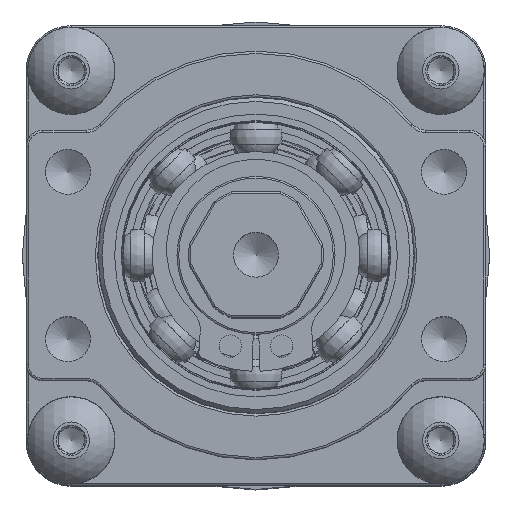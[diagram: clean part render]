
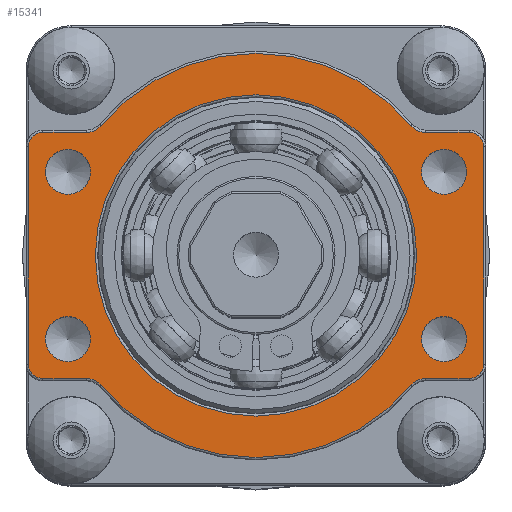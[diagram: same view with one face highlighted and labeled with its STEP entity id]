
A CAD part, top view. The second image highlights one B-rep face of the part: STEP entity #15341.
In plain terms, the highlighted planar face has unit normal (0, 0, 1).
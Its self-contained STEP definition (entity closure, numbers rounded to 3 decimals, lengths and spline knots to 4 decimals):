
#948=LINE('',#26279,#1585);
#949=LINE('',#26283,#1586);
#950=LINE('',#26287,#1587);
#951=LINE('',#26295,#1588);
#952=LINE('',#26299,#1589);
#953=LINE('',#26303,#1590);
#1585=VECTOR('',#20151,0.3937);
#1586=VECTOR('',#20154,0.3937);
#1587=VECTOR('',#20157,0.3937);
#1588=VECTOR('',#20164,0.3937);
#1589=VECTOR('',#20167,0.3937);
#1590=VECTOR('',#20170,0.3937);
#2661=FACE_BOUND('',#4377,.T.);
#2662=FACE_BOUND('',#4378,.T.);
#2663=FACE_BOUND('',#4379,.T.);
#2664=FACE_BOUND('',#4380,.T.);
#2665=FACE_BOUND('',#4381,.T.);
#2845=PLANE('',#16993);
#3298=FACE_OUTER_BOUND('',#4376,.T.);
#4376=EDGE_LOOP('',(#11900,#11901,#11902,#11903,#11904,#11905,#11906,#11907,
#11908,#11909,#11910,#11911,#11912,#11913,#11914,#11915));
#4377=EDGE_LOOP('',(#11916));
#4378=EDGE_LOOP('',(#11917));
#4379=EDGE_LOOP('',(#11918));
#4380=EDGE_LOOP('',(#11919));
#4381=EDGE_LOOP('',(#11920));
#5595=CIRCLE('',#16991,0.4804);
#5597=CIRCLE('',#16994,0.057);
#5598=CIRCLE('',#16995,0.043);
#5599=CIRCLE('',#16996,0.043);
#5600=CIRCLE('',#16997,0.057);
#5601=CIRCLE('',#16998,0.6042);
#5602=CIRCLE('',#16999,0.057);
#5603=CIRCLE('',#17000,0.043);
#5604=CIRCLE('',#17001,0.043);
#5605=CIRCLE('',#17002,0.057);
#5606=CIRCLE('',#17003,0.6042);
#5607=CIRCLE('',#17004,0.0673);
#5608=CIRCLE('',#17005,0.0673);
#5609=CIRCLE('',#17006,0.0673);
#5610=CIRCLE('',#17007,0.0673);
#6825=VERTEX_POINT('',#26271);
#6826=VERTEX_POINT('',#26275);
#6827=VERTEX_POINT('',#26276);
#6828=VERTEX_POINT('',#26278);
#6829=VERTEX_POINT('',#26280);
#6830=VERTEX_POINT('',#26282);
#6831=VERTEX_POINT('',#26284);
#6832=VERTEX_POINT('',#26286);
#6833=VERTEX_POINT('',#26288);
#6834=VERTEX_POINT('',#26290);
#6835=VERTEX_POINT('',#26292);
#6836=VERTEX_POINT('',#26294);
#6837=VERTEX_POINT('',#26296);
#6838=VERTEX_POINT('',#26298);
#6839=VERTEX_POINT('',#26300);
#6840=VERTEX_POINT('',#26302);
#6841=VERTEX_POINT('',#26304);
#6842=VERTEX_POINT('',#26307);
#6843=VERTEX_POINT('',#26309);
#6844=VERTEX_POINT('',#26311);
#6845=VERTEX_POINT('',#26313);
#8655=EDGE_CURVE('',#6825,#6825,#5595,.T.);
#8657=EDGE_CURVE('',#6826,#6827,#5597,.T.);
#8658=EDGE_CURVE('',#6828,#6826,#948,.T.);
#8659=EDGE_CURVE('',#6829,#6828,#5598,.T.);
#8660=EDGE_CURVE('',#6830,#6829,#949,.T.);
#8661=EDGE_CURVE('',#6831,#6830,#5599,.T.);
#8662=EDGE_CURVE('',#6832,#6831,#950,.T.);
#8663=EDGE_CURVE('',#6833,#6832,#5600,.T.);
#8664=EDGE_CURVE('',#6834,#6833,#5601,.T.);
#8665=EDGE_CURVE('',#6835,#6834,#5602,.T.);
#8666=EDGE_CURVE('',#6836,#6835,#951,.T.);
#8667=EDGE_CURVE('',#6837,#6836,#5603,.T.);
#8668=EDGE_CURVE('',#6838,#6837,#952,.T.);
#8669=EDGE_CURVE('',#6839,#6838,#5604,.T.);
#8670=EDGE_CURVE('',#6840,#6839,#953,.T.);
#8671=EDGE_CURVE('',#6841,#6840,#5605,.T.);
#8672=EDGE_CURVE('',#6827,#6841,#5606,.T.);
#8673=EDGE_CURVE('',#6842,#6842,#5607,.T.);
#8674=EDGE_CURVE('',#6843,#6843,#5608,.T.);
#8675=EDGE_CURVE('',#6844,#6844,#5609,.T.);
#8676=EDGE_CURVE('',#6845,#6845,#5610,.T.);
#11900=ORIENTED_EDGE('',*,*,#8657,.F.);
#11901=ORIENTED_EDGE('',*,*,#8658,.F.);
#11902=ORIENTED_EDGE('',*,*,#8659,.F.);
#11903=ORIENTED_EDGE('',*,*,#8660,.F.);
#11904=ORIENTED_EDGE('',*,*,#8661,.F.);
#11905=ORIENTED_EDGE('',*,*,#8662,.F.);
#11906=ORIENTED_EDGE('',*,*,#8663,.F.);
#11907=ORIENTED_EDGE('',*,*,#8664,.F.);
#11908=ORIENTED_EDGE('',*,*,#8665,.F.);
#11909=ORIENTED_EDGE('',*,*,#8666,.F.);
#11910=ORIENTED_EDGE('',*,*,#8667,.F.);
#11911=ORIENTED_EDGE('',*,*,#8668,.F.);
#11912=ORIENTED_EDGE('',*,*,#8669,.F.);
#11913=ORIENTED_EDGE('',*,*,#8670,.F.);
#11914=ORIENTED_EDGE('',*,*,#8671,.F.);
#11915=ORIENTED_EDGE('',*,*,#8672,.F.);
#11916=ORIENTED_EDGE('',*,*,#8673,.T.);
#11917=ORIENTED_EDGE('',*,*,#8674,.T.);
#11918=ORIENTED_EDGE('',*,*,#8675,.T.);
#11919=ORIENTED_EDGE('',*,*,#8676,.T.);
#11920=ORIENTED_EDGE('',*,*,#8655,.F.);
#15341=ADVANCED_FACE('',(#3298,#2661,#2662,#2663,#2664,#2665),#2845,.T.);
#16991=AXIS2_PLACEMENT_3D('',#26272,#20143,#20144);
#16993=AXIS2_PLACEMENT_3D('',#26274,#20147,#20148);
#16994=AXIS2_PLACEMENT_3D('',#26277,#20149,#20150);
#16995=AXIS2_PLACEMENT_3D('',#26281,#20152,#20153);
#16996=AXIS2_PLACEMENT_3D('',#26285,#20155,#20156);
#16997=AXIS2_PLACEMENT_3D('',#26289,#20158,#20159);
#16998=AXIS2_PLACEMENT_3D('',#26291,#20160,#20161);
#16999=AXIS2_PLACEMENT_3D('',#26293,#20162,#20163);
#17000=AXIS2_PLACEMENT_3D('',#26297,#20165,#20166);
#17001=AXIS2_PLACEMENT_3D('',#26301,#20168,#20169);
#17002=AXIS2_PLACEMENT_3D('',#26305,#20171,#20172);
#17003=AXIS2_PLACEMENT_3D('',#26306,#20173,#20174);
#17004=AXIS2_PLACEMENT_3D('',#26308,#20175,#20176);
#17005=AXIS2_PLACEMENT_3D('',#26310,#20177,#20178);
#17006=AXIS2_PLACEMENT_3D('',#26312,#20179,#20180);
#17007=AXIS2_PLACEMENT_3D('',#26314,#20181,#20182);
#20143=DIRECTION('center_axis',(0.,0.,1.));
#20144=DIRECTION('ref_axis',(1.,0.,0.));
#20147=DIRECTION('center_axis',(0.,0.,1.));
#20148=DIRECTION('ref_axis',(1.,0.,0.));
#20149=DIRECTION('center_axis',(0.,0.,1.));
#20150=DIRECTION('ref_axis',(0.423,-0.906,0.));
#20151=DIRECTION('',(1.,0.,0.));
#20152=DIRECTION('center_axis',(0.,0.,-1.));
#20153=DIRECTION('ref_axis',(-0.707,0.707,0.));
#20154=DIRECTION('',(0.,1.,0.));
#20155=DIRECTION('center_axis',(0.,0.,-1.));
#20156=DIRECTION('ref_axis',(-0.707,-0.707,0.));
#20157=DIRECTION('',(-1.,0.,0.));
#20158=DIRECTION('center_axis',(0.,0.,1.));
#20159=DIRECTION('ref_axis',(0.423,0.906,0.));
#20160=DIRECTION('center_axis',(0.,0.,-1.));
#20161=DIRECTION('ref_axis',(0.,-1.,0.));
#20162=DIRECTION('center_axis',(0.,0.,1.));
#20163=DIRECTION('ref_axis',(-0.423,0.906,0.));
#20164=DIRECTION('',(-1.,0.,0.));
#20165=DIRECTION('center_axis',(0.,0.,-1.));
#20166=DIRECTION('ref_axis',(0.707,-0.707,0.));
#20167=DIRECTION('',(0.,-1.,0.));
#20168=DIRECTION('center_axis',(0.,0.,-1.));
#20169=DIRECTION('ref_axis',(0.707,0.707,0.));
#20170=DIRECTION('',(1.,0.,0.));
#20171=DIRECTION('center_axis',(0.,0.,1.));
#20172=DIRECTION('ref_axis',(-0.423,-0.906,0.));
#20173=DIRECTION('center_axis',(0.,0.,-1.));
#20174=DIRECTION('ref_axis',(0.,1.,0.));
#20175=DIRECTION('center_axis',(0.,0.,-1.));
#20176=DIRECTION('ref_axis',(1.,0.,0.));
#20177=DIRECTION('center_axis',(0.,0.,-1.));
#20178=DIRECTION('ref_axis',(1.,0.,0.));
#20179=DIRECTION('center_axis',(0.,0.,-1.));
#20180=DIRECTION('ref_axis',(1.,0.,0.));
#20181=DIRECTION('center_axis',(0.,0.,-1.));
#20182=DIRECTION('ref_axis',(1.,0.,0.));
#26271=CARTESIAN_POINT('',(0.4804,0.,0.2756));
#26272=CARTESIAN_POINT('Origin',(0.,0.,0.2756));
#26274=CARTESIAN_POINT('Origin',(0.,0.,0.2756));
#26275=CARTESIAN_POINT('',(-0.5065,0.368,0.2756));
#26276=CARTESIAN_POINT('',(-0.4629,0.3884,0.2756));
#26277=CARTESIAN_POINT('Origin',(-0.5065,0.425,0.2756));
#26278=CARTESIAN_POINT('',(-0.6375,0.368,0.2756));
#26279=CARTESIAN_POINT('',(-0.2413,0.368,0.2756));
#26280=CARTESIAN_POINT('',(-0.6805,0.325,0.2756));
#26281=CARTESIAN_POINT('Origin',(-0.6375,0.325,0.2756));
#26282=CARTESIAN_POINT('',(-0.6805,-0.325,0.2756));
#26283=CARTESIAN_POINT('',(-0.6805,0.1875,0.2756));
#26284=CARTESIAN_POINT('',(-0.6375,-0.368,0.2756));
#26285=CARTESIAN_POINT('Origin',(-0.6375,-0.325,0.2756));
#26286=CARTESIAN_POINT('',(-0.5065,-0.368,0.2756));
#26287=CARTESIAN_POINT('',(-0.3438,-0.368,0.2756));
#26288=CARTESIAN_POINT('',(-0.4629,-0.3884,0.2756));
#26289=CARTESIAN_POINT('Origin',(-0.5065,-0.425,0.2756));
#26290=CARTESIAN_POINT('',(0.4629,-0.3884,0.2756));
#26291=CARTESIAN_POINT('Origin',(0.,0.,0.2756));
#26292=CARTESIAN_POINT('',(0.5065,-0.368,0.2756));
#26293=CARTESIAN_POINT('Origin',(0.5065,-0.425,0.2756));
#26294=CARTESIAN_POINT('',(0.6375,-0.368,0.2756));
#26295=CARTESIAN_POINT('',(0.2413,-0.368,0.2756));
#26296=CARTESIAN_POINT('',(0.6805,-0.325,0.2756));
#26297=CARTESIAN_POINT('Origin',(0.6375,-0.325,0.2756));
#26298=CARTESIAN_POINT('',(0.6805,0.325,0.2756));
#26299=CARTESIAN_POINT('',(0.6805,-0.1875,0.2756));
#26300=CARTESIAN_POINT('',(0.6375,0.368,0.2756));
#26301=CARTESIAN_POINT('Origin',(0.6375,0.325,0.2756));
#26302=CARTESIAN_POINT('',(0.5065,0.368,0.2756));
#26303=CARTESIAN_POINT('',(0.3438,0.368,0.2756));
#26304=CARTESIAN_POINT('',(0.4629,0.3884,0.2756));
#26305=CARTESIAN_POINT('Origin',(0.5065,0.425,0.2756));
#26306=CARTESIAN_POINT('Origin',(0.,0.,0.2756));
#26307=CARTESIAN_POINT('',(0.4953,0.25,0.2756));
#26308=CARTESIAN_POINT('Origin',(0.5625,0.25,0.2756));
#26309=CARTESIAN_POINT('',(-0.6298,-0.25,0.2756));
#26310=CARTESIAN_POINT('Origin',(-0.5625,-0.25,0.2756));
#26311=CARTESIAN_POINT('',(0.4953,-0.25,0.2756));
#26312=CARTESIAN_POINT('Origin',(0.5625,-0.25,0.2756));
#26313=CARTESIAN_POINT('',(-0.6298,0.25,0.2756));
#26314=CARTESIAN_POINT('Origin',(-0.5625,0.25,0.2756));
